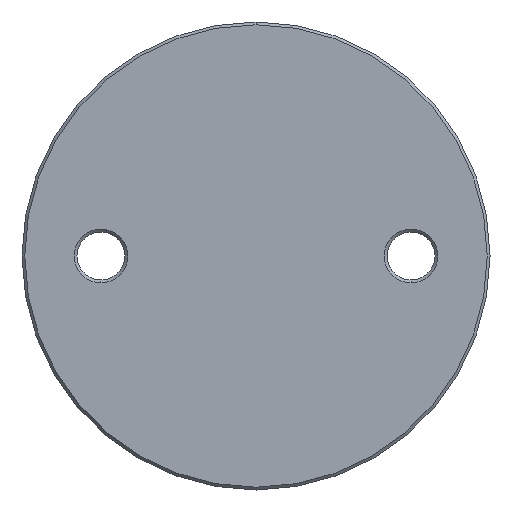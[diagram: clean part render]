
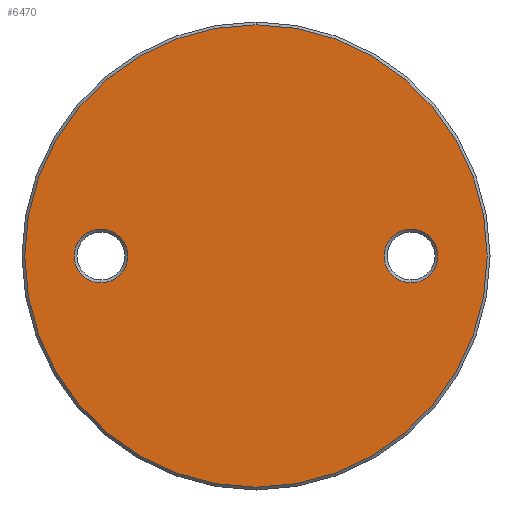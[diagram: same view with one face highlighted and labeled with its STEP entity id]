
A CAD part, front view. The second image highlights one B-rep face of the part: STEP entity #6470.
In plain terms, the highlighted planar face has unit normal (0, -1, 0).
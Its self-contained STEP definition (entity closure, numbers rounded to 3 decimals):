
#237 = CARTESIAN_POINT ( 'NONE',  ( 27.5, -3., 4.75 ) ) ;
#453 = CARTESIAN_POINT ( 'NONE',  ( 27.5, -3., -4.75 ) ) ;
#570 = ORIENTED_EDGE ( 'NONE', *, *, #7552, .T. ) ;
#590 = PLANE ( 'NONE',  #2805 ) ;
#672 = DIRECTION ( 'NONE',  ( 0., -1., 0. ) ) ;
#673 = CIRCLE ( 'NONE', #7193, 41. ) ;
#724 = AXIS2_PLACEMENT_3D ( 'NONE', #9051, #3416, #1386 ) ;
#728 = VERTEX_POINT ( 'NONE', #237 ) ;
#731 = CARTESIAN_POINT ( 'NONE',  ( 0., -3., 0. ) ) ;
#802 = VERTEX_POINT ( 'NONE', #8490 ) ;
#953 = EDGE_LOOP ( 'NONE', ( #4016, #2127 ) ) ;
#971 = CARTESIAN_POINT ( 'NONE',  ( 0., -3., -41. ) ) ;
#1257 = ORIENTED_EDGE ( 'NONE', *, *, #3628, .T. ) ;
#1386 = DIRECTION ( 'NONE',  ( 0., 0., -1. ) ) ;
#1708 = CARTESIAN_POINT ( 'NONE',  ( 27.5, -3., 0. ) ) ;
#1920 = FACE_BOUND ( 'NONE', #953, .T. ) ;
#2027 = CARTESIAN_POINT ( 'NONE',  ( -27.5, -3., 0. ) ) ;
#2127 = ORIENTED_EDGE ( 'NONE', *, *, #2308, .T. ) ;
#2254 = CIRCLE ( 'NONE', #6050, 4.75 ) ;
#2308 = EDGE_CURVE ( 'NONE', #8274, #2472, #4336, .T. ) ;
#2472 = VERTEX_POINT ( 'NONE', #7858 ) ;
#2805 = AXIS2_PLACEMENT_3D ( 'NONE', #8271, #8327, #6803 ) ;
#2846 = EDGE_CURVE ( 'NONE', #728, #5339, #2880, .T. ) ;
#2880 = CIRCLE ( 'NONE', #3207, 4.75 ) ;
#3207 = AXIS2_PLACEMENT_3D ( 'NONE', #7482, #7546, #5508 ) ;
#3416 = DIRECTION ( 'NONE',  ( 0., 1., 0. ) ) ;
#3628 = EDGE_CURVE ( 'NONE', #9018, #802, #673, .T. ) ;
#3637 = DIRECTION ( 'NONE',  ( 0., -1., 0. ) ) ;
#3648 = CIRCLE ( 'NONE', #4280, 4.75 ) ;
#3814 = FACE_OUTER_BOUND ( 'NONE', #8027, .T. ) ;
#3859 = CARTESIAN_POINT ( 'NONE',  ( -27.5, -3., 4.75 ) ) ;
#4016 = ORIENTED_EDGE ( 'NONE', *, *, #4109, .T. ) ;
#4109 = EDGE_CURVE ( 'NONE', #2472, #8274, #3648, .T. ) ;
#4280 = AXIS2_PLACEMENT_3D ( 'NONE', #2027, #6221, #4838 ) ;
#4336 = CIRCLE ( 'NONE', #724, 4.75 ) ;
#4348 = DIRECTION ( 'NONE',  ( 0., 0., -1. ) ) ;
#4582 = ORIENTED_EDGE ( 'NONE', *, *, #2846, .T. ) ;
#4838 = DIRECTION ( 'NONE',  ( 0., 0., -1. ) ) ;
#5339 = VERTEX_POINT ( 'NONE', #453 ) ;
#5508 = DIRECTION ( 'NONE',  ( 0., 0., -1. ) ) ;
#5565 = EDGE_LOOP ( 'NONE', ( #570, #4582 ) ) ;
#5648 = DIRECTION ( 'NONE',  ( 0., 0., -1. ) ) ;
#5806 = CARTESIAN_POINT ( 'NONE',  ( 0., -3., 0. ) ) ;
#6050 = AXIS2_PLACEMENT_3D ( 'NONE', #1708, #7325, #8038 ) ;
#6093 = CIRCLE ( 'NONE', #7323, 41. ) ;
#6221 = DIRECTION ( 'NONE',  ( 0., 1., 0. ) ) ;
#6470 = ADVANCED_FACE ( 'NONE', ( #7409, #1920, #3814 ), #590, .T. ) ;
#6803 = DIRECTION ( 'NONE',  ( 0., 0., -1. ) ) ;
#7193 = AXIS2_PLACEMENT_3D ( 'NONE', #731, #672, #5648 ) ;
#7323 = AXIS2_PLACEMENT_3D ( 'NONE', #5806, #3637, #4348 ) ;
#7325 = DIRECTION ( 'NONE',  ( 0., 1., 0. ) ) ;
#7409 = FACE_BOUND ( 'NONE', #5565, .T. ) ;
#7482 = CARTESIAN_POINT ( 'NONE',  ( 27.5, -3., 0. ) ) ;
#7546 = DIRECTION ( 'NONE',  ( 0., 1., 0. ) ) ;
#7552 = EDGE_CURVE ( 'NONE', #5339, #728, #2254, .T. ) ;
#7858 = CARTESIAN_POINT ( 'NONE',  ( -27.5, -3., -4.75 ) ) ;
#8027 = EDGE_LOOP ( 'NONE', ( #8562, #1257 ) ) ;
#8038 = DIRECTION ( 'NONE',  ( 0., 0., -1. ) ) ;
#8271 = CARTESIAN_POINT ( 'NONE',  ( 0., -3., 41.5 ) ) ;
#8274 = VERTEX_POINT ( 'NONE', #3859 ) ;
#8327 = DIRECTION ( 'NONE',  ( 0., -1., 0. ) ) ;
#8490 = CARTESIAN_POINT ( 'NONE',  ( 0., -3., 41. ) ) ;
#8562 = ORIENTED_EDGE ( 'NONE', *, *, #8763, .T. ) ;
#8763 = EDGE_CURVE ( 'NONE', #802, #9018, #6093, .T. ) ;
#9018 = VERTEX_POINT ( 'NONE', #971 ) ;
#9051 = CARTESIAN_POINT ( 'NONE',  ( -27.5, -3., 0. ) ) ;
